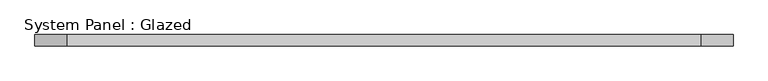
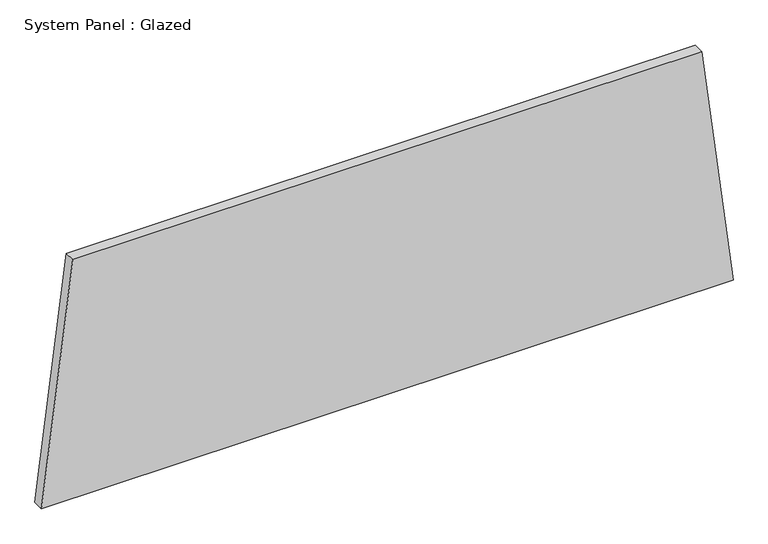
"""IFC4 building model written with IfcOpenShell, lengths in millimetres: plate geometry, System Panel : Glazed."""

from ifc_helpers import new_model, si_unit, frame, origin, place, context, project, spatial, polyline, outline, extrude, source, transform, mapped, element, save


def system_panel_glazed_42fef723(model_context):
    return source(origin(), model_context, "Body", "SweptSolid", [
        extrude(outline(polyline([(0.0, -793.662463), (0.0, 793.662463), (579.5391204, 721.5831263), (579.5391204, -721.5831263), (0.0, -793.662463)])), frame((0.0, -44.45, 0.0), z_axis=(0.0, 1.0, 0.0), x_axis=(0.0, 0.0, 1.0)), (0.0, 0.0, 1.0), 25.4),
    ])


if __name__ == "__main__":
    model = new_model("IFC4")
    model_context = context("Model", 3, world=origin())
    ifc_project = project(units=[si_unit("LENGTHUNIT", "METRE", prefix="MILLI")], contexts=[model_context])
    site = spatial("IfcSite", under=ifc_project)
    building = spatial("IfcBuilding", under=site)
    placement = place(None, origin())
    system_panel_glazed_shape = system_panel_glazed_42fef723(model_context)
    element("IfcPlate", 1, ObjectType="System Panel : Glazed", at=placement, inside=building, context=model_context, shape_type="MappedRepresentation", body=[
        mapped(system_panel_glazed_shape, transform((0.0, 0.0, 0.0), x_axis=(1.0, 0.0, 0.0), y_axis=(0.0, 1.0, 0.0), z_axis=(0.0, 0.0, 1.0))),
    ])
    save(model, "model.ifc")
